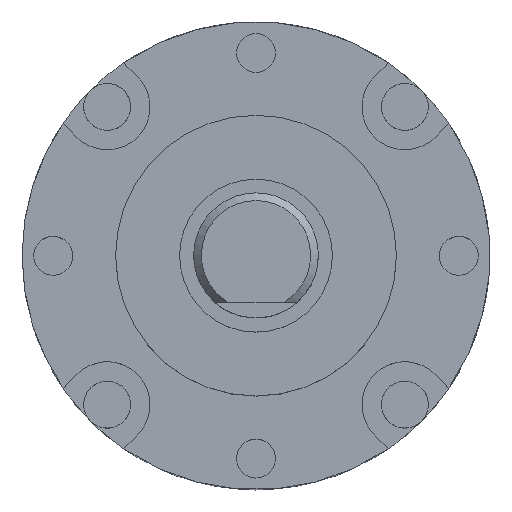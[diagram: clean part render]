
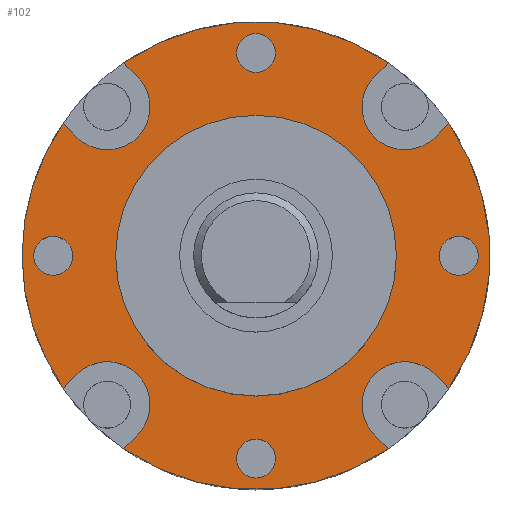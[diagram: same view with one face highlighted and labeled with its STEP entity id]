
A CAD part, top view. The second image highlights one B-rep face of the part: STEP entity #102.
In plain terms, the highlighted planar face has unit normal (0, 0, 1).
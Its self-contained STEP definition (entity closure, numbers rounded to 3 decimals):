
#66=PLANE('',#1471);
#102=ADVANCED_FACE('',(#190,#191,#192,#193,#194,#195),#66,.T.);
#190=FACE_BOUND('',#260,.T.);
#191=FACE_BOUND('',#261,.T.);
#192=FACE_BOUND('',#262,.T.);
#193=FACE_BOUND('',#263,.T.);
#194=FACE_BOUND('',#264,.T.);
#195=FACE_BOUND('',#265,.T.);
#260=EDGE_LOOP('',(#378));
#261=EDGE_LOOP('',(#379));
#262=EDGE_LOOP('',(#380));
#263=EDGE_LOOP('',(#381));
#264=EDGE_LOOP('',(#382));
#265=EDGE_LOOP('',(#383,#384,#385,#386,#387,#388,#389,#390,#391,#392,#393,
#394,#395,#396,#397,#398));
#378=ORIENTED_EDGE('',*,*,#658,.T.);
#379=ORIENTED_EDGE('',*,*,#659,.T.);
#380=ORIENTED_EDGE('',*,*,#660,.T.);
#381=ORIENTED_EDGE('',*,*,#661,.T.);
#382=ORIENTED_EDGE('',*,*,#662,.T.);
#383=ORIENTED_EDGE('',*,*,#643,.F.);
#384=ORIENTED_EDGE('',*,*,#663,.T.);
#385=ORIENTED_EDGE('',*,*,#664,.T.);
#386=ORIENTED_EDGE('',*,*,#665,.T.);
#387=ORIENTED_EDGE('',*,*,#638,.F.);
#388=ORIENTED_EDGE('',*,*,#666,.T.);
#389=ORIENTED_EDGE('',*,*,#667,.T.);
#390=ORIENTED_EDGE('',*,*,#668,.T.);
#391=ORIENTED_EDGE('',*,*,#653,.F.);
#392=ORIENTED_EDGE('',*,*,#669,.T.);
#393=ORIENTED_EDGE('',*,*,#670,.T.);
#394=ORIENTED_EDGE('',*,*,#671,.T.);
#395=ORIENTED_EDGE('',*,*,#648,.F.);
#396=ORIENTED_EDGE('',*,*,#672,.T.);
#397=ORIENTED_EDGE('',*,*,#673,.T.);
#398=ORIENTED_EDGE('',*,*,#674,.T.);
#560=VERTEX_POINT('',#2048);
#561=VERTEX_POINT('',#2049);
#565=VERTEX_POINT('',#2057);
#566=VERTEX_POINT('',#2059);
#570=VERTEX_POINT('',#2067);
#571=VERTEX_POINT('',#2069);
#575=VERTEX_POINT('',#2077);
#576=VERTEX_POINT('',#2079);
#580=VERTEX_POINT('',#2089);
#581=VERTEX_POINT('',#2091);
#582=VERTEX_POINT('',#2093);
#583=VERTEX_POINT('',#2095);
#584=VERTEX_POINT('',#2097);
#585=VERTEX_POINT('',#2099);
#586=VERTEX_POINT('',#2101);
#587=VERTEX_POINT('',#2104);
#588=VERTEX_POINT('',#2106);
#589=VERTEX_POINT('',#2109);
#590=VERTEX_POINT('',#2111);
#591=VERTEX_POINT('',#2114);
#592=VERTEX_POINT('',#2116);
#638=EDGE_CURVE('',#560,#561,#757,.T.);
#643=EDGE_CURVE('',#565,#566,#760,.T.);
#648=EDGE_CURVE('',#570,#571,#763,.T.);
#653=EDGE_CURVE('',#575,#576,#766,.T.);
#658=EDGE_CURVE('',#580,#580,#769,.T.);
#659=EDGE_CURVE('',#581,#581,#770,.T.);
#660=EDGE_CURVE('',#582,#582,#771,.T.);
#661=EDGE_CURVE('',#583,#583,#772,.T.);
#662=EDGE_CURVE('',#584,#584,#773,.T.);
#663=EDGE_CURVE('',#565,#585,#1125,.T.);
#664=EDGE_CURVE('',#585,#586,#774,.T.);
#665=EDGE_CURVE('',#586,#561,#1126,.T.);
#666=EDGE_CURVE('',#560,#587,#1127,.T.);
#667=EDGE_CURVE('',#587,#588,#775,.T.);
#668=EDGE_CURVE('',#588,#576,#1128,.T.);
#669=EDGE_CURVE('',#575,#589,#1129,.T.);
#670=EDGE_CURVE('',#589,#590,#776,.T.);
#671=EDGE_CURVE('',#590,#571,#1130,.T.);
#672=EDGE_CURVE('',#570,#591,#1131,.T.);
#673=EDGE_CURVE('',#591,#592,#777,.T.);
#674=EDGE_CURVE('',#592,#566,#1132,.T.);
#757=CIRCLE('',#1449,15.);
#760=CIRCLE('',#1452,15.);
#763=CIRCLE('',#1455,15.);
#766=CIRCLE('',#1458,15.);
#769=CIRCLE('',#1462,1.25);
#770=CIRCLE('',#1463,1.25);
#771=CIRCLE('',#1464,1.25);
#772=CIRCLE('',#1465,1.25);
#773=CIRCLE('',#1466,9.);
#774=CIRCLE('',#1467,2.75);
#775=CIRCLE('',#1468,2.75);
#776=CIRCLE('',#1469,2.75);
#777=CIRCLE('',#1470,2.75);
#1125=LINE('',#2098,#1225);
#1126=LINE('',#2102,#1226);
#1127=LINE('',#2103,#1227);
#1128=LINE('',#2107,#1228);
#1129=LINE('',#2108,#1229);
#1130=LINE('',#2112,#1230);
#1131=LINE('',#2113,#1231);
#1132=LINE('',#2117,#1232);
#1225=VECTOR('',#1721,1.);
#1226=VECTOR('',#1724,1.);
#1227=VECTOR('',#1725,1.);
#1228=VECTOR('',#1728,1.);
#1229=VECTOR('',#1729,1.);
#1230=VECTOR('',#1732,1.);
#1231=VECTOR('',#1733,1.);
#1232=VECTOR('',#1736,1.);
#1449=AXIS2_PLACEMENT_3D('',#2047,#1677,#1678);
#1452=AXIS2_PLACEMENT_3D('',#2058,#1685,#1686);
#1455=AXIS2_PLACEMENT_3D('',#2068,#1693,#1694);
#1458=AXIS2_PLACEMENT_3D('',#2078,#1701,#1702);
#1462=AXIS2_PLACEMENT_3D('',#2088,#1711,#1712);
#1463=AXIS2_PLACEMENT_3D('',#2090,#1713,#1714);
#1464=AXIS2_PLACEMENT_3D('',#2092,#1715,#1716);
#1465=AXIS2_PLACEMENT_3D('',#2094,#1717,#1718);
#1466=AXIS2_PLACEMENT_3D('',#2096,#1719,#1720);
#1467=AXIS2_PLACEMENT_3D('',#2100,#1722,#1723);
#1468=AXIS2_PLACEMENT_3D('',#2105,#1726,#1727);
#1469=AXIS2_PLACEMENT_3D('',#2110,#1730,#1731);
#1470=AXIS2_PLACEMENT_3D('',#2115,#1734,#1735);
#1471=AXIS2_PLACEMENT_3D('',#2118,#1737,#1738);
#1677=DIRECTION('',(0.,0.,-1.));
#1678=DIRECTION('',(-1.,0.,0.));
#1685=DIRECTION('',(0.,0.,-1.));
#1686=DIRECTION('',(-1.,0.,0.));
#1693=DIRECTION('',(0.,0.,-1.));
#1694=DIRECTION('',(-1.,0.,0.));
#1701=DIRECTION('',(0.,0.,-1.));
#1702=DIRECTION('',(-1.,0.,0.));
#1711=DIRECTION('',(0.,0.,-1.));
#1712=DIRECTION('',(0.,1.,0.));
#1713=DIRECTION('',(0.,0.,-1.));
#1714=DIRECTION('',(1.,0.,0.));
#1715=DIRECTION('',(0.,0.,-1.));
#1716=DIRECTION('',(0.,-1.,0.));
#1717=DIRECTION('',(0.,0.,-1.));
#1718=DIRECTION('',(-1.,0.,0.));
#1719=DIRECTION('',(0.,0.,-1.));
#1720=DIRECTION('',(1.,0.,0.));
#1721=DIRECTION('',(-0.707,-0.707,0.));
#1722=DIRECTION('',(0.,0.,-1.));
#1723=DIRECTION('',(0.,-1.,0.));
#1724=DIRECTION('',(0.707,0.707,0.));
#1725=DIRECTION('',(0.707,-0.707,0.));
#1726=DIRECTION('',(0.,0.,-1.));
#1727=DIRECTION('',(1.,0.,0.));
#1728=DIRECTION('',(-0.707,0.707,0.));
#1729=DIRECTION('',(0.707,0.707,0.));
#1730=DIRECTION('',(0.,0.,-1.));
#1731=DIRECTION('',(0.,1.,0.));
#1732=DIRECTION('',(-0.707,-0.707,0.));
#1733=DIRECTION('',(-0.707,0.707,0.));
#1734=DIRECTION('',(0.,0.,-1.));
#1735=DIRECTION('',(-1.,0.,0.));
#1736=DIRECTION('',(0.707,-0.707,0.));
#1737=DIRECTION('',(0.,0.,1.));
#1738=DIRECTION('',(1.,0.,0.));
#2047=CARTESIAN_POINT('',(0.,0.,0.));
#2048=CARTESIAN_POINT('',(-8.482,12.371,0.));
#2049=CARTESIAN_POINT('',(8.482,12.371,0.));
#2057=CARTESIAN_POINT('',(12.371,8.482,0.));
#2058=CARTESIAN_POINT('',(0.,0.,0.));
#2059=CARTESIAN_POINT('',(12.371,-8.482,0.));
#2067=CARTESIAN_POINT('',(8.482,-12.371,0.));
#2068=CARTESIAN_POINT('',(0.,0.,0.));
#2069=CARTESIAN_POINT('',(-8.482,-12.371,0.));
#2077=CARTESIAN_POINT('',(-12.371,-8.482,0.));
#2078=CARTESIAN_POINT('',(0.,0.,0.));
#2079=CARTESIAN_POINT('',(-12.371,8.482,0.));
#2088=CARTESIAN_POINT('',(13.,0.,0.));
#2089=CARTESIAN_POINT('',(13.,1.25,0.));
#2090=CARTESIAN_POINT('',(0.,-13.,0.));
#2091=CARTESIAN_POINT('',(1.25,-13.,0.));
#2092=CARTESIAN_POINT('',(-13.,0.,0.));
#2093=CARTESIAN_POINT('',(-13.,-1.25,0.));
#2094=CARTESIAN_POINT('',(0.,13.,0.));
#2095=CARTESIAN_POINT('',(-1.25,13.,0.));
#2096=CARTESIAN_POINT('',(0.,0.,0.));
#2097=CARTESIAN_POINT('',(9.,0.,0.));
#2098=CARTESIAN_POINT('',(12.551,8.662,0.));
#2099=CARTESIAN_POINT('',(11.49,7.601,0.));
#2100=CARTESIAN_POINT('',(9.546,9.546,0.));
#2101=CARTESIAN_POINT('',(7.601,11.49,0.));
#2102=CARTESIAN_POINT('',(7.601,11.49,0.));
#2103=CARTESIAN_POINT('',(-8.662,12.551,0.));
#2104=CARTESIAN_POINT('',(-7.601,11.49,0.));
#2105=CARTESIAN_POINT('',(-9.546,9.546,0.));
#2106=CARTESIAN_POINT('',(-11.49,7.601,0.));
#2107=CARTESIAN_POINT('',(-11.49,7.601,0.));
#2108=CARTESIAN_POINT('',(-12.551,-8.662,0.));
#2109=CARTESIAN_POINT('',(-11.49,-7.601,0.));
#2110=CARTESIAN_POINT('',(-9.546,-9.546,0.));
#2111=CARTESIAN_POINT('',(-7.601,-11.49,0.));
#2112=CARTESIAN_POINT('',(-7.601,-11.49,0.));
#2113=CARTESIAN_POINT('',(8.662,-12.551,0.));
#2114=CARTESIAN_POINT('',(7.601,-11.49,0.));
#2115=CARTESIAN_POINT('',(9.546,-9.546,0.));
#2116=CARTESIAN_POINT('',(11.49,-7.601,0.));
#2117=CARTESIAN_POINT('',(11.49,-7.601,0.));
#2118=CARTESIAN_POINT('',(0.,0.,0.));
